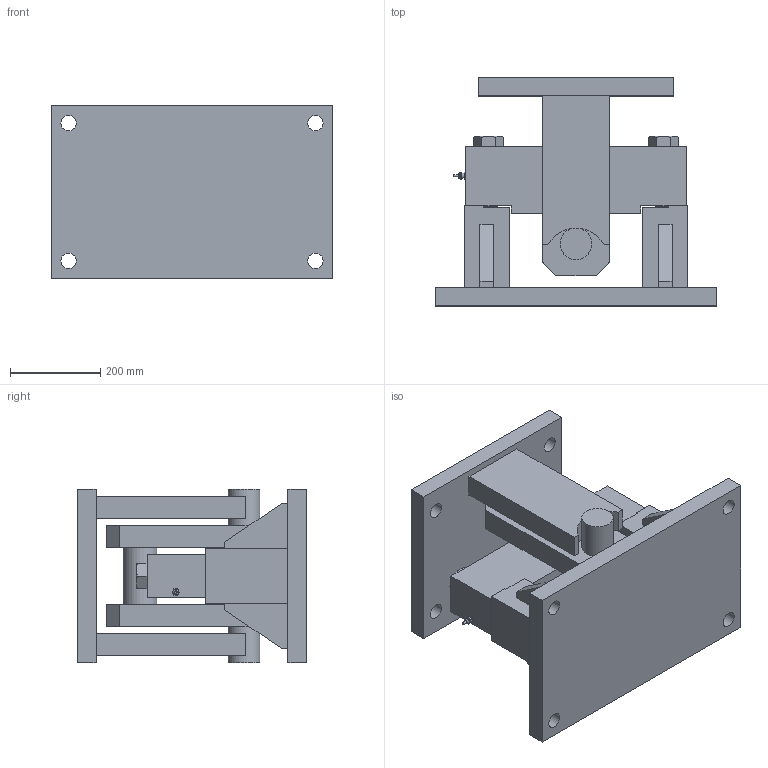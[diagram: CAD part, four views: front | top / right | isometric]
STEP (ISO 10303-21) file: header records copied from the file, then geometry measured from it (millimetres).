
FILE_DESCRIPTION(/* description */ (''),/* implementation_level */ '2;1');
FILE_NAME(/* name */ 'C:/Users/fardi/Dropbox/Anyload/Load Cell Models/3D Drawing/102/102BH/102BHM1-200klb v16.step',/* time_stamp */ '2020-03-09T10:07:52-07:00',/* author */ (''),/* organization */ (''),/* preprocessor_version */ 'ST-DEVELOPER v18',/* originating_system */ 'Autodesk Translation Framework v8.12.0.6',/* authorisation */ '');
FILE_SCHEMA (('AUTOMOTIVE_DESIGN { 1 0 10303 214 3 1 1 }'));
Length unit declared in the file: millimetre
Products named in the file (7): 102BHM1-200klb; Base ; 102BH-200klb; Connector; 91268A402; Rocker Block; Top
Assembly tree (7 placements, depth 3):
  102BHM1-200klb
    Base 
    102BH-200klb
      Connector
    91268A402  x2
    Rocker Block
    Top
Bounding box: 622.05 x 504.95 x 384.05 mm (x, y, z)
Volume: 39266136.3 mm3; surface area: 2306877.6 mm2
Topology: 8 solids, 8 shells, 334 faces, 863 edges, 573 vertices
Faces by surface type: plane 170, cylinder 137, cone 19, bspline 7, torus 1
Full cylindrical faces by diameter (mm): 5.1 x1, 10 x1, 12 x2, 13 x1, 32.601 x40, 34.036 x8, 38.1 x42, 40.64 x2, 41.148 x2, 70 x3, 75 x3
Entity records: 13004 total; most frequent: CARTESIAN_POINT 7118, ORIENTED_EDGE 1224, DIRECTION 1101, EDGE_CURVE 612, VERTEX_POINT 408, LINE 399, VECTOR 399, AXIS2_PLACEMENT_3D 351
